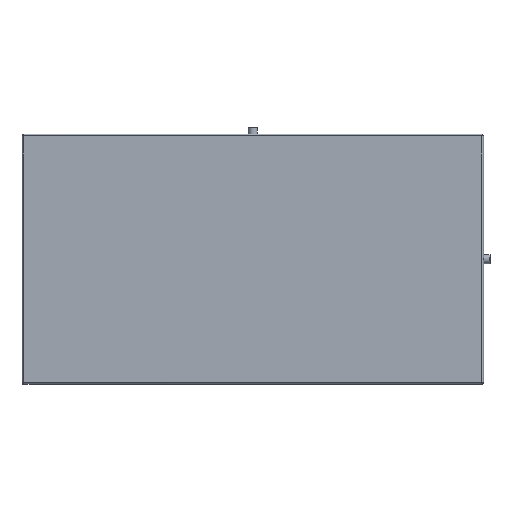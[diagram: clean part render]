
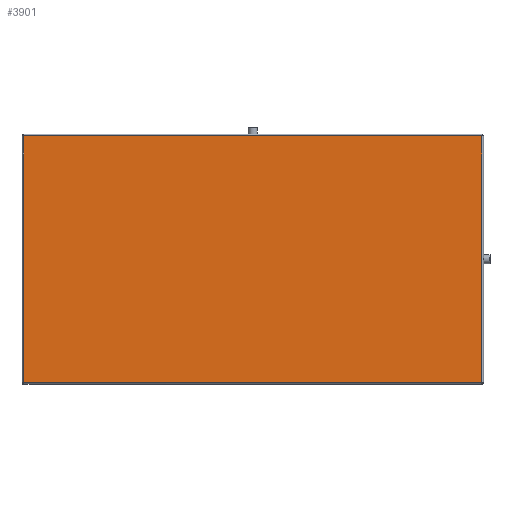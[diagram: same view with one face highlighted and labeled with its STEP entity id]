
A CAD part, front view. The second image highlights one B-rep face of the part: STEP entity #3901.
In plain terms, the highlighted planar face has unit normal (0, -1, 0).
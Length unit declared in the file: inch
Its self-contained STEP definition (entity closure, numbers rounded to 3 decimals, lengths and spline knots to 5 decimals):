
#254 = CARTESIAN_POINT ( 'NONE',  ( -41.67445, -4.42475, -13.9687 ) ) ;
#541 = VECTOR ( 'NONE', #2642, 39.37008 ) ;
#1314 = LINE ( 'NONE', #2408, #4526 ) ;
#1440 = CARTESIAN_POINT ( 'NONE',  ( 29.77235, -4.42475, -13.9687 ) ) ;
#2360 = VERTEX_POINT ( 'NONE', #1440 ) ;
#2387 = DIRECTION ( 'NONE',  ( -1., 0., 0. ) ) ;
#2408 = CARTESIAN_POINT ( 'NONE',  ( 29.89399, -4.42475, 24.4781 ) ) ;
#2441 = CARTESIAN_POINT ( 'NONE',  ( 29.77235, -4.42475, -14.09034 ) ) ;
#2451 = DIRECTION ( 'NONE',  ( 0., 0., 1. ) ) ;
#2507 = DIRECTION ( 'NONE',  ( 0., 0., -1. ) ) ;
#2543 = CARTESIAN_POINT ( 'NONE',  ( -41.67445, -4.42475, 24.59975 ) ) ;
#2642 = DIRECTION ( 'NONE',  ( 1., 0., 0. ) ) ;
#2643 = CARTESIAN_POINT ( 'NONE',  ( -41.7961, -4.42475, -13.9687 ) ) ;
#2789 = VERTEX_POINT ( 'NONE', #6959 ) ;
#2961 = AXIS2_PLACEMENT_3D ( 'NONE', #6067, #5999, #5993 ) ;
#3253 = LINE ( 'NONE', #2441, #7194 ) ;
#3453 = LINE ( 'NONE', #2543, #4911 ) ;
#3666 = VERTEX_POINT ( 'NONE', #6813 ) ;
#3901 = ADVANCED_FACE ( 'NONE', ( #5287 ), #6015, .T. ) ;
#4465 = EDGE_CURVE ( 'NONE', #4648, #2360, #5485, .T. ) ;
#4479 = EDGE_CURVE ( 'NONE', #2789, #4648, #3453, .T. ) ;
#4496 = EDGE_CURVE ( 'NONE', #2360, #3666, #3253, .T. ) ;
#4504 = EDGE_CURVE ( 'NONE', #3666, #2789, #1314, .T. ) ;
#4526 = VECTOR ( 'NONE', #2387, 39.37008 ) ;
#4648 = VERTEX_POINT ( 'NONE', #254 ) ;
#4854 = ORIENTED_EDGE ( 'NONE', *, *, #4465, .T. ) ;
#4911 = VECTOR ( 'NONE', #2507, 39.37008 ) ;
#5046 = ORIENTED_EDGE ( 'NONE', *, *, #4496, .T. ) ;
#5287 = FACE_OUTER_BOUND ( 'NONE', #6934, .T. ) ;
#5485 = LINE ( 'NONE', #2643, #541 ) ;
#5993 = DIRECTION ( 'NONE',  ( 0., 0., -1. ) ) ;
#5999 = DIRECTION ( 'NONE',  ( 0., -1., 0. ) ) ;
#6015 = PLANE ( 'NONE',  #2961 ) ;
#6067 = CARTESIAN_POINT ( 'NONE',  ( -41.95105, -4.42475, -14.2453 ) ) ;
#6314 = ORIENTED_EDGE ( 'NONE', *, *, #4479, .T. ) ;
#6510 = ORIENTED_EDGE ( 'NONE', *, *, #4504, .T. ) ;
#6813 = CARTESIAN_POINT ( 'NONE',  ( 29.77235, -4.42475, 24.4781 ) ) ;
#6934 = EDGE_LOOP ( 'NONE', ( #5046, #6510, #6314, #4854 ) ) ;
#6959 = CARTESIAN_POINT ( 'NONE',  ( -41.67445, -4.42475, 24.4781 ) ) ;
#7194 = VECTOR ( 'NONE', #2451, 39.37008 ) ;
